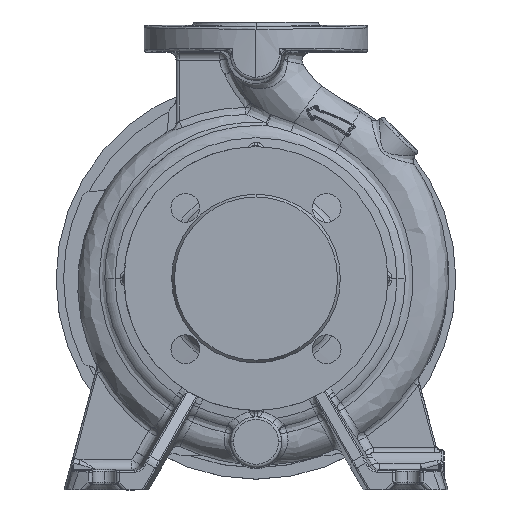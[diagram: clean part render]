
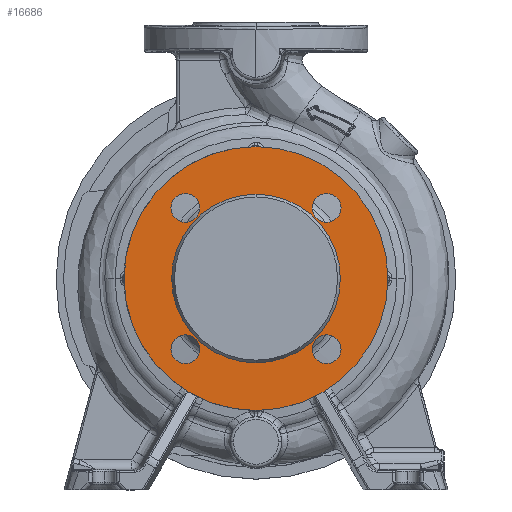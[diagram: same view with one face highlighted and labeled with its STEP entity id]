
A CAD part, top view. The second image highlights one B-rep face of the part: STEP entity #16686.
In plain terms, the highlighted planar face has unit normal (0, 0, 1).
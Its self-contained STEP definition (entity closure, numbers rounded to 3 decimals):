
#910 = DIRECTION ( 'NONE',  ( 0., 1., 0. ) ) ;
#1360 = DIRECTION ( 'NONE',  ( 0., 1., 0. ) ) ;
#2803 = CARTESIAN_POINT ( 'NONE',  ( 0., 52.732, 77. ) ) ;
#2807 = DIRECTION ( 'NONE',  ( 0., 0., -1. ) ) ;
#4322 = AXIS2_PLACEMENT_3D ( 'NONE', #62873, #19566, #79690 ) ;
#5669 = VERTEX_POINT ( 'NONE', #46445 ) ;
#5822 = ORIENTED_EDGE ( 'NONE', *, *, #41438, .T. ) ;
#6407 = CARTESIAN_POINT ( 'NONE',  ( -35.194, -44.194, 77. ) ) ;
#6550 = AXIS2_PLACEMENT_3D ( 'NONE', #36999, #20513, #95751 ) ;
#7581 = EDGE_LOOP ( 'NONE', ( #84393, #57606 ) ) ;
#8835 = EDGE_CURVE ( 'NONE', #102074, #29920, #29242, .T. ) ;
#9251 = ORIENTED_EDGE ( 'NONE', *, *, #58593, .T. ) ;
#10088 = DIRECTION ( 'NONE',  ( 0., 0., -1. ) ) ;
#10201 = ORIENTED_EDGE ( 'NONE', *, *, #26650, .T. ) ;
#11200 = CARTESIAN_POINT ( 'NONE',  ( 0., 0., 77. ) ) ;
#11545 = DIRECTION ( 'NONE',  ( 0., 0., -1. ) ) ;
#11675 = AXIS2_PLACEMENT_3D ( 'NONE', #63576, #80787, #80420 ) ;
#12754 = AXIS2_PLACEMENT_3D ( 'NONE', #94870, #2807, #1360 ) ;
#12960 = DIRECTION ( 'NONE',  ( 0., 1., 0. ) ) ;
#13592 = DIRECTION ( 'NONE',  ( 0., 0., -1. ) ) ;
#13926 = CARTESIAN_POINT ( 'NONE',  ( 0., 0., 77. ) ) ;
#15434 = EDGE_CURVE ( 'NONE', #60266, #65721, #53124, .T. ) ;
#16686 = ADVANCED_FACE ( 'NONE', ( #101530, #76581, #85755, #18773, #73949, #96230 ), #17855, .F. ) ;
#16820 = CIRCLE ( 'NONE', #108200, 9. ) ;
#17855 = PLANE ( 'NONE',  #23815 ) ;
#18086 = EDGE_LOOP ( 'NONE', ( #5822, #95336 ) ) ;
#18773 = FACE_BOUND ( 'NONE', #18086, .T. ) ;
#19566 = DIRECTION ( 'NONE',  ( 0., 0., -1. ) ) ;
#19587 = CARTESIAN_POINT ( 'NONE',  ( 0., -52.732, 77. ) ) ;
#20280 = VERTEX_POINT ( 'NONE', #95581 ) ;
#20513 = DIRECTION ( 'NONE',  ( 0., 0., -1. ) ) ;
#20659 = CARTESIAN_POINT ( 'NONE',  ( -44.194, -44.194, 77. ) ) ;
#20796 = AXIS2_PLACEMENT_3D ( 'NONE', #13926, #98301, #31463 ) ;
#23672 = AXIS2_PLACEMENT_3D ( 'NONE', #43449, #10088, #910 ) ;
#23815 = AXIS2_PLACEMENT_3D ( 'NONE', #42080, #92050, #61640 ) ;
#26650 = EDGE_CURVE ( 'NONE', #20280, #30112, #16820, .T. ) ;
#28232 = DIRECTION ( 'NONE',  ( 0., 0., -1. ) ) ;
#29242 = CIRCLE ( 'NONE', #80031, 52.732 ) ;
#29878 = CARTESIAN_POINT ( 'NONE',  ( -44.194, 44.194, 77. ) ) ;
#29920 = VERTEX_POINT ( 'NONE', #2803 ) ;
#30112 = VERTEX_POINT ( 'NONE', #6407 ) ;
#30874 = EDGE_LOOP ( 'NONE', ( #103726, #71241 ) ) ;
#31463 = DIRECTION ( 'NONE',  ( 0., 1., 0. ) ) ;
#36999 = CARTESIAN_POINT ( 'NONE',  ( 44.194, -44.194, 77. ) ) ;
#37966 = CIRCLE ( 'NONE', #23672, 9. ) ;
#38760 = CARTESIAN_POINT ( 'NONE',  ( 53.194, -44.194, 77. ) ) ;
#40189 = CIRCLE ( 'NONE', #6550, 9. ) ;
#41438 = EDGE_CURVE ( 'NONE', #70397, #103360, #105734, .T. ) ;
#42080 = CARTESIAN_POINT ( 'NONE',  ( 0., 52.732, 77. ) ) ;
#42637 = EDGE_CURVE ( 'NONE', #103360, #70397, #54286, .T. ) ;
#43449 = CARTESIAN_POINT ( 'NONE',  ( 44.194, -44.194, 77. ) ) ;
#44881 = CARTESIAN_POINT ( 'NONE',  ( 53.194, 44.194, 77. ) ) ;
#44991 = EDGE_CURVE ( 'NONE', #5669, #101283, #40189, .T. ) ;
#45672 = EDGE_CURVE ( 'NONE', #65805, #55144, #80881, .T. ) ;
#46445 = CARTESIAN_POINT ( 'NONE',  ( 35.194, -44.194, 77. ) ) ;
#47031 = ORIENTED_EDGE ( 'NONE', *, *, #45672, .T. ) ;
#47534 = DIRECTION ( 'NONE',  ( 0., 1., 0. ) ) ;
#48284 = CIRCLE ( 'NONE', #20796, 82.5 ) ;
#49366 = EDGE_LOOP ( 'NONE', ( #64290, #10201 ) ) ;
#51680 = CIRCLE ( 'NONE', #11675, 9. ) ;
#52911 = DIRECTION ( 'NONE',  ( 0., 1., 0. ) ) ;
#53124 = CIRCLE ( 'NONE', #94715, 82.5 ) ;
#54222 = CARTESIAN_POINT ( 'NONE',  ( 0., -82.5, 77. ) ) ;
#54286 = CIRCLE ( 'NONE', #4322, 9. ) ;
#55144 = VERTEX_POINT ( 'NONE', #85349 ) ;
#57606 = ORIENTED_EDGE ( 'NONE', *, *, #93933, .F. ) ;
#58593 = EDGE_CURVE ( 'NONE', #29920, #102074, #91451, .T. ) ;
#60266 = VERTEX_POINT ( 'NONE', #87853 ) ;
#61640 = DIRECTION ( 'NONE',  ( 0., 1., 0. ) ) ;
#62873 = CARTESIAN_POINT ( 'NONE',  ( 44.194, 44.194, 77. ) ) ;
#63378 = CARTESIAN_POINT ( 'NONE',  ( -35.194, 44.194, 77. ) ) ;
#63576 = CARTESIAN_POINT ( 'NONE',  ( -44.194, -44.194, 77. ) ) ;
#64290 = ORIENTED_EDGE ( 'NONE', *, *, #93095, .T. ) ;
#65721 = VERTEX_POINT ( 'NONE', #54222 ) ;
#65805 = VERTEX_POINT ( 'NONE', #63378 ) ;
#66688 = DIRECTION ( 'NONE',  ( 0., 0., -1. ) ) ;
#70397 = VERTEX_POINT ( 'NONE', #44881 ) ;
#71241 = ORIENTED_EDGE ( 'NONE', *, *, #44991, .T. ) ;
#72486 = DIRECTION ( 'NONE',  ( 0., 0., -1. ) ) ;
#73515 = EDGE_LOOP ( 'NONE', ( #47031, #94840 ) ) ;
#73790 = EDGE_CURVE ( 'NONE', #101283, #5669, #37966, .T. ) ;
#73811 = CARTESIAN_POINT ( 'NONE',  ( 35.194, 44.194, 77. ) ) ;
#73949 = FACE_BOUND ( 'NONE', #30874, .T. ) ;
#74541 = AXIS2_PLACEMENT_3D ( 'NONE', #98698, #13592, #89559 ) ;
#76581 = FACE_OUTER_BOUND ( 'NONE', #7581, .T. ) ;
#77588 = AXIS2_PLACEMENT_3D ( 'NONE', #29878, #72486, #47534 ) ;
#78698 = ORIENTED_EDGE ( 'NONE', *, *, #8835, .T. ) ;
#79146 = EDGE_CURVE ( 'NONE', #55144, #65805, #84703, .T. ) ;
#79690 = DIRECTION ( 'NONE',  ( 0., 1., 0. ) ) ;
#80031 = AXIS2_PLACEMENT_3D ( 'NONE', #11200, #103279, #94135 ) ;
#80420 = DIRECTION ( 'NONE',  ( 0., 1., 0. ) ) ;
#80787 = DIRECTION ( 'NONE',  ( 0., 0., -1. ) ) ;
#80881 = CIRCLE ( 'NONE', #77588, 9. ) ;
#83927 = DIRECTION ( 'NONE',  ( 0., 1., 0. ) ) ;
#84393 = ORIENTED_EDGE ( 'NONE', *, *, #15434, .F. ) ;
#84703 = CIRCLE ( 'NONE', #12754, 9. ) ;
#85349 = CARTESIAN_POINT ( 'NONE',  ( -53.194, 44.194, 77. ) ) ;
#85755 = FACE_BOUND ( 'NONE', #73515, .T. ) ;
#86644 = CARTESIAN_POINT ( 'NONE',  ( 0., 0., 77. ) ) ;
#87853 = CARTESIAN_POINT ( 'NONE',  ( 0., 82.5, 77. ) ) ;
#87862 = EDGE_LOOP ( 'NONE', ( #9251, #78698 ) ) ;
#89559 = DIRECTION ( 'NONE',  ( 0., 1., 0. ) ) ;
#90620 = AXIS2_PLACEMENT_3D ( 'NONE', #86644, #28232, #52911 ) ;
#91451 = CIRCLE ( 'NONE', #90620, 52.732 ) ;
#92050 = DIRECTION ( 'NONE',  ( 0., 0., -1. ) ) ;
#93095 = EDGE_CURVE ( 'NONE', #30112, #20280, #51680, .T. ) ;
#93933 = EDGE_CURVE ( 'NONE', #65721, #60266, #48284, .T. ) ;
#94135 = DIRECTION ( 'NONE',  ( 0., 1., 0. ) ) ;
#94715 = AXIS2_PLACEMENT_3D ( 'NONE', #100065, #66688, #83927 ) ;
#94840 = ORIENTED_EDGE ( 'NONE', *, *, #79146, .T. ) ;
#94870 = CARTESIAN_POINT ( 'NONE',  ( -44.194, 44.194, 77. ) ) ;
#95336 = ORIENTED_EDGE ( 'NONE', *, *, #42637, .T. ) ;
#95581 = CARTESIAN_POINT ( 'NONE',  ( -53.194, -44.194, 77. ) ) ;
#95751 = DIRECTION ( 'NONE',  ( 0., 1., 0. ) ) ;
#96230 = FACE_BOUND ( 'NONE', #49366, .T. ) ;
#98301 = DIRECTION ( 'NONE',  ( 0., 0., -1. ) ) ;
#98698 = CARTESIAN_POINT ( 'NONE',  ( 44.194, 44.194, 77. ) ) ;
#100065 = CARTESIAN_POINT ( 'NONE',  ( 0., 0., 77. ) ) ;
#101283 = VERTEX_POINT ( 'NONE', #38760 ) ;
#101530 = FACE_BOUND ( 'NONE', #87862, .T. ) ;
#102074 = VERTEX_POINT ( 'NONE', #19587 ) ;
#103279 = DIRECTION ( 'NONE',  ( 0., 0., -1. ) ) ;
#103360 = VERTEX_POINT ( 'NONE', #73811 ) ;
#103726 = ORIENTED_EDGE ( 'NONE', *, *, #73790, .T. ) ;
#105734 = CIRCLE ( 'NONE', #74541, 9. ) ;
#108200 = AXIS2_PLACEMENT_3D ( 'NONE', #20659, #11545, #12960 ) ;
